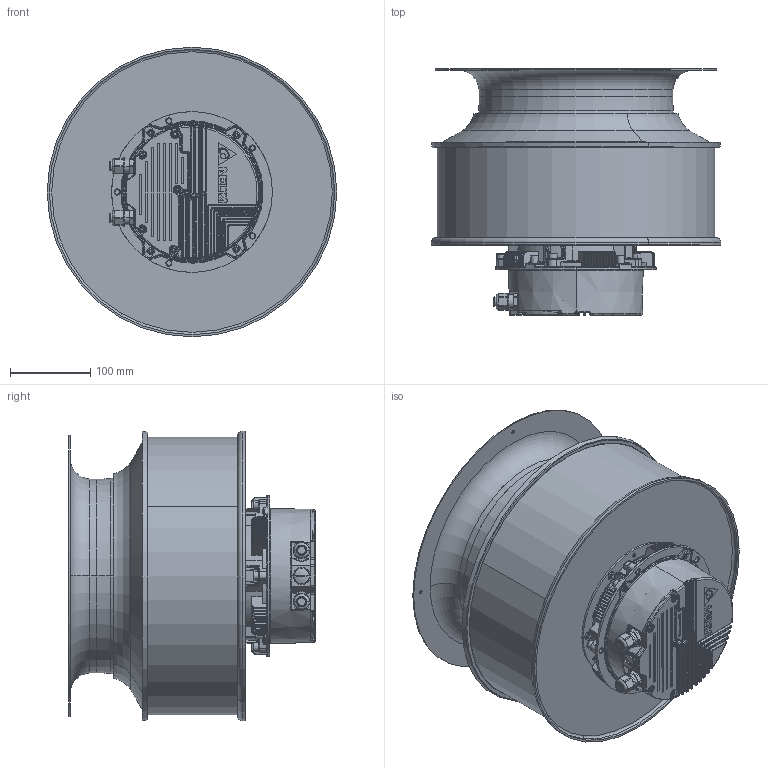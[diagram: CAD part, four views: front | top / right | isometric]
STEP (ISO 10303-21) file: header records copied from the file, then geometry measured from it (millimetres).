
FILE_DESCRIPTION (( 'STEP AP214' ), '1' );
FILE_NAME ('gtb036pcn25r.STEP', '2025-02-04T01:50:43', ( '' ), ( '' ), 'SwSTEP 2.0', 'SolidWorks 2019', '' );
FILE_SCHEMA (( 'AUTOMOTIVE_DESIGN' ));
Length unit declared in the file: millimetre
Products named in the file (23): 3430197400--BUSHING; TOP-BOTTOM; Part76^4101402400--PUNKER-IMPELLER_ASM; 3477092000--CABLE-GLAND; NYLON_GLAND; SCREW-M4-L10; 3323148900--CASE_ASM; FLANGE; gtb036pcn25r; 3329049500--CASE-ASSEMBLY_ASM; SCREW-M6-L8; RUBBER_PAD-R02; 3815579300--ROTOR-ASSEMBLY_ASM; 4101251800--PILLOW; 4101662000--COVER; 3354083500--SHAFT; 4101645300-COVER_SLOT; gtb036pcn25r(2); CASE(2); CAP-ASSY_0828_ASM; 4101402400--PUNKER-IMPELLER_ASM; NOZZLE-ED11-355S; TORX_SLOT_M4_L10
Assembly tree (35 placements, depth 6):
  gtb036pcn25r
    gtb036pcn25r(2)
      3815579300--ROTOR-ASSEMBLY_ASM
        3329049500--CASE-ASSEMBLY_ASM
          3323148900--CASE_ASM
            CASE(2)
            FLANGE
          3430197400--BUSHING
          3354083500--SHAFT
        4101402400--PUNKER-IMPELLER_ASM
          TOP-BOTTOM
          Part76^4101402400--PUNKER-IMPELLER_ASM
        SCREW-M6-L8  x6
      CAP-ASSY_0828_ASM
        4101662000--COVER
        NYLON_GLAND  x2
        4101645300-COVER_SLOT
        RUBBER_PAD-R02
        TORX_SLOT_M4_L10  x5
      4101251800--PILLOW
      SCREW-M4-L10  x4
      NOZZLE-ED11-355S
      3477092000--CABLE-GLAND
Bounding box: 360 x 306.2 x 360 mm (x, y, z)
Volume: 6593907.6 mm3; surface area: 1349726.4 mm2
Topology: 30 solids, 30 shells, 4840 faces, 12152 edges, 7444 vertices
Faces by surface type: cylinder 1553, plane 1415, bspline 922, torus 612, cone 250, sphere 88
Entity records: 198088 total; most frequent: CARTESIAN_POINT 102159, ORIENTED_EDGE 21780, DIRECTION 17604, EDGE_CURVE 10890, AXIS2_PLACEMENT_3D 7119, VERTEX_POINT 6664, EDGE_LOOP 4618, ADVANCED_FACE 4388
